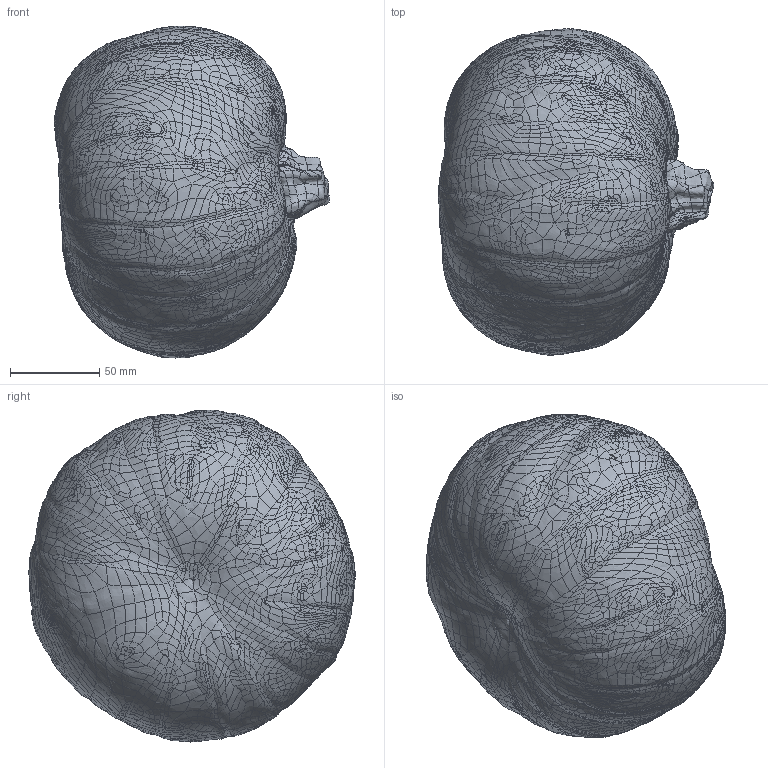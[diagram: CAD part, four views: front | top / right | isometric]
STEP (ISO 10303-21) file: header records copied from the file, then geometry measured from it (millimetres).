
FILE_DESCRIPTION(('STEP AP214'),'1');
FILE_NAME('dynia.stp','2023-10-30T09:14:43',(' '),(' '),'Spatial InterOp 3D',' ',' ');
FILE_SCHEMA(('AUTOMOTIVE_DESIGN { 1 0 10303 214 1 1 1 1 }'));
Length unit declared in the file: millimetre
Products named in the file (1): 1
Bounding box: 154.55 x 183.11 x 186.34 mm (x, y, z)
Volume: 2588928.7 mm3; surface area: 96088.4 mm2
Topology: 1 solids, 1 shells, 5480 faces, 10992 edges, 5514 vertices
Faces by surface type: bspline 5480
Entity records: 702874 total; most frequent: CARTESIAN_POINT 631450, ORIENTED_EDGE 21984, EDGE_CURVE 10992, B_SPLINE_CURVE_WITH_KNOTS 10992, VERTEX_POINT 5514, ADVANCED_FACE 5480, FACE_OUTER_BOUND 5480, B_SPLINE_SURFACE_WITH_KNOTS 5480
